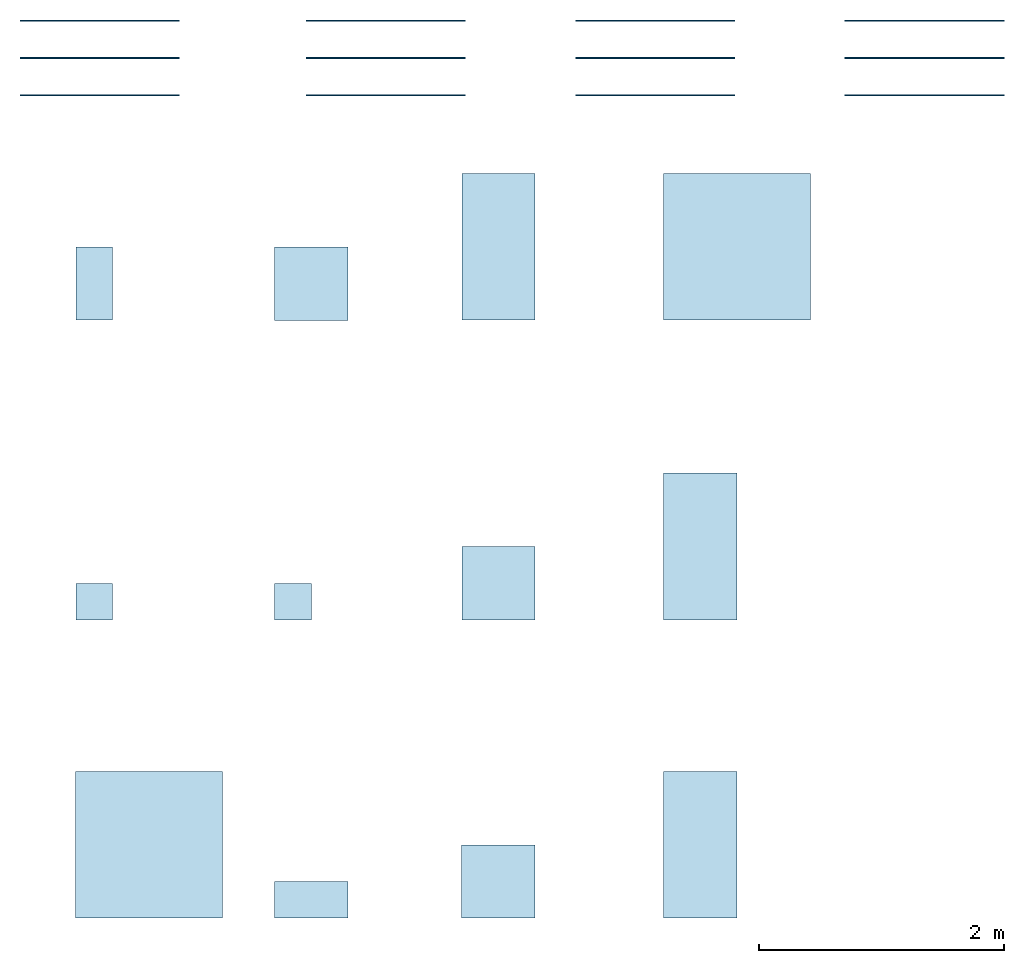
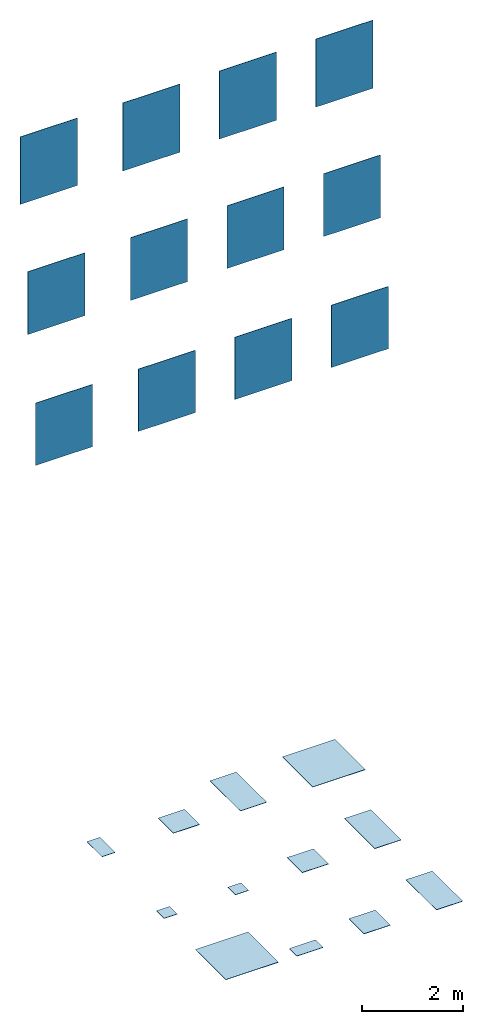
# One storey: 12 slabs, 12 walls.
"""IFC2X3 building model written with IfcOpenShell, lengths in millimetres."""

from ifc_helpers import new_model, entity, si_unit, converted_unit, derived_unit, direction, frame, frame_2d, origin, origin_2d_with_axis, place, context, subcontext, project, spatial, rectangle, extrude, material, layer, layer_set, layer_usage, type_object, element, save


model = new_model("IFC2X3")

# Units and contexts
model_context = context("Model", 3, precision=0.01, world=origin(), true_north=direction((6.12303176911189e-17, 1.0)))
body_context = subcontext(model_context, "Body", "Model", "MODEL_VIEW")
ifc_project = project(units=[si_unit("LENGTHUNIT", "METRE", prefix="MILLI"), si_unit("AREAUNIT", "SQUARE_METRE"), si_unit("VOLUMEUNIT", "CUBIC_METRE"), converted_unit("PLANEANGLEUNIT", "DEGREE", entity("IfcRatioMeasure", 0.0174532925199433), si_unit("PLANEANGLEUNIT", "RADIAN"), dimensions=[0, 0, 0, 0, 0, 0, 0]), si_unit("MASSUNIT", "GRAM", prefix="KILO"), derived_unit("MASSDENSITYUNIT", [(si_unit("MASSUNIT", "GRAM", prefix="KILO"), 1), (si_unit("LENGTHUNIT", "METRE"), -3)]), derived_unit("MOMENTOFINERTIAUNIT", [(si_unit("LENGTHUNIT", "METRE"), 4)]), si_unit("TIMEUNIT", "SECOND"), si_unit("FREQUENCYUNIT", "HERTZ"), si_unit("THERMODYNAMICTEMPERATUREUNIT", "DEGREE_CELSIUS"), derived_unit("THERMALTRANSMITTANCEUNIT", [(si_unit("MASSUNIT", "GRAM", prefix="KILO"), 1), (si_unit("THERMODYNAMICTEMPERATUREUNIT", "KELVIN"), -1), (si_unit("TIMEUNIT", "SECOND"), -3)]), derived_unit("VOLUMETRICFLOWRATEUNIT", [(si_unit("LENGTHUNIT", "METRE"), 3), (si_unit("TIMEUNIT", "SECOND"), -1)]), si_unit("ELECTRICCURRENTUNIT", "AMPERE"), si_unit("ELECTRICVOLTAGEUNIT", "VOLT"), si_unit("POWERUNIT", "WATT"), si_unit("FORCEUNIT", "NEWTON", prefix="KILO"), si_unit("ILLUMINANCEUNIT", "LUX"), si_unit("LUMINOUSFLUXUNIT", "LUMEN"), si_unit("LUMINOUSINTENSITYUNIT", "CANDELA"), derived_unit("USERDEFINED", [(si_unit("MASSUNIT", "GRAM", prefix="KILO"), -1), (si_unit("LENGTHUNIT", "METRE"), -2), (si_unit("TIMEUNIT", "SECOND"), 3), (si_unit("LUMINOUSFLUXUNIT", "LUMEN"), 1)]), derived_unit("LINEARVELOCITYUNIT", [(si_unit("LENGTHUNIT", "METRE"), 1), (si_unit("TIMEUNIT", "SECOND"), -1)]), si_unit("PRESSUREUNIT", "PASCAL"), derived_unit("USERDEFINED", [(si_unit("LENGTHUNIT", "METRE"), -2), (si_unit("MASSUNIT", "GRAM", prefix="KILO"), 1), (si_unit("TIMEUNIT", "SECOND"), -2)]), derived_unit("LINEARFORCEUNIT", [(si_unit("MASSUNIT", "GRAM", prefix="KILO"), 1), (si_unit("LENGTHUNIT", "METRE"), 1), (si_unit("TIMEUNIT", "SECOND"), -2), (si_unit("LENGTHUNIT", "METRE"), -1)]), derived_unit("PLANARFORCEUNIT", [(si_unit("MASSUNIT", "GRAM", prefix="KILO"), 1), (si_unit("LENGTHUNIT", "METRE"), 1), (si_unit("TIMEUNIT", "SECOND"), -2), (si_unit("LENGTHUNIT", "METRE"), -2)])], contexts=[model_context])

# Site, building, storey
site_placement = place(None, origin())
site = spatial("IfcSite", under=ifc_project, at=site_placement, Name="Default", CompositionType="ELEMENT")
building_placement = place(site_placement, origin())
building = spatial("IfcBuilding", under=site, at=building_placement, CompositionType="ELEMENT")
storey_placement = place(building_placement, origin())
storey = spatial("IfcBuildingStorey", under=building, at=storey_placement, Name="Level 0", CompositionType="ELEMENT", Elevation=0.0)

# Slabs
ifc_material_1 = material(Name="Pedra Azul-Ivory-60x120 NZ55")
ifc_layer_1 = layer(ifc_material_1, 9.0)
ifc_material_2 = material(Name="<Unnamed>")
ifc_layer_2 = layer(ifc_material_2, 1.0)
ifc_layer_set_1 = layer_set([ifc_layer_1, ifc_layer_2], Name="Floor:Floor_Tiles_Refin-Pedra_Azul-Ivory-60x120 NZ55")
ifc_layer_usage_1 = layer_usage(ifc_layer_set_1, "AXIS3", "POSITIVE", 0.0)
slab_type_1 = type_object("IfcSlabType", Name="Floor:Floor_Tiles_Refin-Pedra_Azul-Ivory-60x120 NZ55", PredefinedType="FLOOR", material=ifc_layer_set_1)
slab_1_placement = place(storey_placement, origin())
element("IfcSlab", 1, at=slab_1_placement, inside=storey, type_object=slab_type_1, material=ifc_layer_usage_1, Name="Floor:Floor_Tiles_Refin-Pedra_Azul-Ivory-60x120 NZ55", ObjectType="Floor:Floor_Tiles_Refin-Pedra_Azul-Ivory-60x120 NZ55", PredefinedType="FLOOR", context=body_context, shape_type="SweptSolid", body=[
    extrude(rectangle(XDim=1200.0, YDim=600.0, at=frame_2d((0.0, 1.08002495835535e-12), x_axis=(1.0, 0.0))), frame((9827.18614186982, 6289.46237428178, 0.0), z_axis=(0.0, 0.0, -1.0), x_axis=(0.0, 1.0, 0.0)), (0.0, 0.0, 1.0), 10.0),
])
ifc_material_3 = material(Name="Pedra Azul-Ivory-30x60 NZ61")
ifc_layer_3 = layer(ifc_material_3, 9.0)
ifc_layer_4 = layer(ifc_material_2, 1.0)
ifc_layer_set_2 = layer_set([ifc_layer_3, ifc_layer_4], Name="Floor:Floor_Tiles_Refin-Pedra_Azul-Ivory-30x60 NZ61")
ifc_layer_usage_2 = layer_usage(ifc_layer_set_2, "AXIS3", "POSITIVE", 0.0)
slab_type_2 = type_object("IfcSlabType", Name="Floor:Floor_Tiles_Refin-Pedra_Azul-Ivory-30x60 NZ61", PredefinedType="FLOOR", material=ifc_layer_set_2)
slab_2_placement = place(storey_placement, origin())
element("IfcSlab", 2, at=slab_2_placement, inside=storey, type_object=slab_type_2, material=ifc_layer_usage_2, Name="Floor:Floor_Tiles_Refin-Pedra_Azul-Ivory-30x60 NZ61", ObjectType="Floor:Floor_Tiles_Refin-Pedra_Azul-Ivory-30x60 NZ61", PredefinedType="FLOOR", context=body_context, shape_type="SweptSolid", body=[
    extrude(rectangle(XDim=600.0, YDim=300.0, at=frame_2d((0.0, -5.40012479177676e-13), x_axis=(1.0, 0.0))), frame((6524.37520617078, 5989.4623742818, 0.0), z_axis=(0.0, 0.0, -1.0), x_axis=(0.0, 1.0, 0.0)), (0.0, 0.0, 1.0), 10.0),
])
ifc_material_4 = material(Name="Pedra Azul-Ivory-Lucido-60x60 OA48")
ifc_layer_5 = layer(ifc_material_4, 9.0)
ifc_layer_6 = layer(ifc_material_2, 1.0)
ifc_layer_set_3 = layer_set([ifc_layer_5, ifc_layer_6], Name="Floor:Floor_Tiles_Refin-Pedra_Azul-Ivory_Lucido-60x60 OA48")
ifc_layer_usage_3 = layer_usage(ifc_layer_set_3, "AXIS3", "POSITIVE", 0.0)
slab_type_3 = type_object("IfcSlabType", Name="Floor:Floor_Tiles_Refin-Pedra_Azul-Ivory_Lucido-60x60 OA48", PredefinedType="FLOOR", material=ifc_layer_set_3)
slab_3_placement = place(storey_placement, origin())
element("IfcSlab", 3, at=slab_3_placement, inside=storey, type_object=slab_type_3, material=ifc_layer_usage_3, Name="Floor:Floor_Tiles_Refin-Pedra_Azul-Ivory_Lucido-60x60 OA48", ObjectType="Floor:Floor_Tiles_Refin-Pedra_Azul-Ivory_Lucido-60x60 OA48", PredefinedType="FLOOR", context=body_context, shape_type="SweptSolid", body=[
    extrude(rectangle(XDim=600.0, YDim=600.0, at=frame_2d((0.0, -1.08002495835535e-12), x_axis=(1.0, 0.0))), frame((9827.18614186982, 3539.46237428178, 0.0), z_axis=(0.0, 0.0, -1.0), x_axis=(0.0, 1.0, 0.0)), (0.0, 0.0, 1.0), 10.0),
])
ifc_material_5 = material(Name="Pedra Azul-Ivory-Mosaico-Mix-30x30 NZ89")
ifc_layer_7 = layer(ifc_material_5, 9.0)
ifc_layer_8 = layer(ifc_material_2, 1.0)
ifc_layer_set_4 = layer_set([ifc_layer_7, ifc_layer_8], Name="Floor:Floor_Tiles_Refin-Pedra_Azul-Ivory_Mosaico_Mix-30x30 NZ89")
ifc_layer_usage_4 = layer_usage(ifc_layer_set_4, "AXIS3", "POSITIVE", 0.0)
slab_type_4 = type_object("IfcSlabType", Name="Floor:Floor_Tiles_Refin-Pedra_Azul-Ivory_Mosaico_Mix-30x30 NZ89", PredefinedType="FLOOR", material=ifc_layer_set_4)
slab_4_placement = place(storey_placement, origin())
element("IfcSlab", 4, at=slab_4_placement, inside=storey, type_object=slab_type_4, material=ifc_layer_usage_4, Name="Floor:Floor_Tiles_Refin-Pedra_Azul-Ivory_Mosaico_Mix-30x30 NZ89", ObjectType="Floor:Floor_Tiles_Refin-Pedra_Azul-Ivory_Mosaico_Mix-30x30 NZ89", PredefinedType="FLOOR", context=body_context, shape_type="SweptSolid", body=[
    extrude(rectangle(XDim=300.0, YDim=300.0, at=frame_2d((-5.40012479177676e-13, -5.40012479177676e-13), x_axis=(1.0, 0.0))), frame((8147.39240545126, 3389.4623742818, 0.0), z_axis=(0.0, 0.0, -1.0), x_axis=(0.0, 1.0, 0.0)), (0.0, 0.0, 1.0), 10.0),
])
ifc_material_6 = material(Name="Pedra Azul-Ivory-Mosaico-30x30 NV93")
ifc_layer_9 = layer(ifc_material_6, 9.0)
ifc_layer_10 = layer(ifc_material_2, 1.0)
ifc_layer_set_5 = layer_set([ifc_layer_9, ifc_layer_10], Name="Floor:Floor_Tiles_Refin-Pedra_Azul-Ivory_Mosaico-30x30 NV93")
ifc_layer_usage_5 = layer_usage(ifc_layer_set_5, "AXIS3", "POSITIVE", 0.0)
slab_type_5 = type_object("IfcSlabType", Name="Floor:Floor_Tiles_Refin-Pedra_Azul-Ivory_Mosaico-30x30 NV93", PredefinedType="FLOOR", material=ifc_layer_set_5)
slab_5_placement = place(storey_placement, origin())
element("IfcSlab", 5, at=slab_5_placement, inside=storey, type_object=slab_type_5, material=ifc_layer_usage_5, Name="Floor:Floor_Tiles_Refin-Pedra_Azul-Ivory_Mosaico-30x30 NV93", ObjectType="Floor:Floor_Tiles_Refin-Pedra_Azul-Ivory_Mosaico-30x30 NV93", PredefinedType="FLOOR", context=body_context, shape_type="SweptSolid", body=[
    extrude(rectangle(XDim=300.0, YDim=300.0, at=frame_2d((-5.40012479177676e-13, -5.40012479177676e-13), x_axis=(1.0, 0.0))), frame((6524.37520617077, 3389.4623742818, 0.0), z_axis=(0.0, 0.0, -1.0), x_axis=(0.0, 1.0, 0.0)), (0.0, 0.0, 1.0), 10.0),
])
ifc_material_7 = material(Name="Pedra Azul-Ivory-Lucido-120x120 OA71")
ifc_layer_11 = layer(ifc_material_7, 9.0)
ifc_layer_12 = layer(ifc_material_2, 1.0)
ifc_layer_set_6 = layer_set([ifc_layer_11, ifc_layer_12], Name="Floor:Floor_Tiles_Refin-Pedra_Azul-Ivory_Lucido-120x120 OA71")
ifc_layer_usage_6 = layer_usage(ifc_layer_set_6, "AXIS3", "POSITIVE", 0.0)
slab_type_6 = type_object("IfcSlabType", Name="Floor:Floor_Tiles_Refin-Pedra_Azul-Ivory_Lucido-120x120 OA71", PredefinedType="FLOOR", material=ifc_layer_set_6)
slab_6_placement = place(storey_placement, origin())
element("IfcSlab", 6, at=slab_6_placement, inside=storey, type_object=slab_type_6, material=ifc_layer_usage_6, Name="Floor:Floor_Tiles_Refin-Pedra_Azul-Ivory_Lucido-120x120 OA71", ObjectType="Floor:Floor_Tiles_Refin-Pedra_Azul-Ivory_Lucido-120x120 OA71", PredefinedType="FLOOR", context=body_context, shape_type="SweptSolid", body=[
    extrude(rectangle(XDim=1200.0, YDim=1200.0, at=origin_2d_with_axis()), frame((6972.60093306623, 1403.43672349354, 0.0), z_axis=(0.0, 0.0, -1.0), x_axis=(0.0, 1.0, 0.0)), (0.0, 0.0, 1.0), 10.0),
])
ifc_material_8 = material(Name="Pedra Azul-Ivory-60x60 NV51")
ifc_layer_13 = layer(ifc_material_8, 9.0)
ifc_layer_14 = layer(ifc_material_2, 1.0)
ifc_layer_set_7 = layer_set([ifc_layer_13, ifc_layer_14], Name="Floor:Floor_Tiles_Refin-Pedra_Azul-Ivory-60x60 NV51")
ifc_layer_usage_7 = layer_usage(ifc_layer_set_7, "AXIS3", "POSITIVE", 0.0)
slab_type_7 = type_object("IfcSlabType", Name="Floor:Floor_Tiles_Refin-Pedra_Azul-Ivory-60x60 NV51", PredefinedType="FLOOR", material=ifc_layer_set_7)
slab_7_placement = place(storey_placement, origin())
element("IfcSlab", 7, at=slab_7_placement, inside=storey, type_object=slab_type_7, material=ifc_layer_usage_7, Name="Floor:Floor_Tiles_Refin-Pedra_Azul-Ivory-60x60 NV51", ObjectType="Floor:Floor_Tiles_Refin-Pedra_Azul-Ivory-60x60 NV51", PredefinedType="FLOOR", context=body_context, shape_type="SweptSolid", body=[
    extrude(rectangle(XDim=600.0, YDim=600.0, at=origin_2d_with_axis()), frame((8297.39240545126, 5988.41920639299, 0.0), z_axis=(0.0, 0.0, -1.0), x_axis=(0.0, 1.0, 0.0)), (0.0, 0.0, 1.0), 10.0),
])
ifc_material_9 = material(Name="Pedra Azul-Ivory-Strutt.-30x60 NV55")
ifc_layer_15 = layer(ifc_material_9, 9.0)
ifc_layer_16 = layer(ifc_material_2, 1.0)
ifc_layer_set_8 = layer_set([ifc_layer_15, ifc_layer_16], Name="Floor:Floor_Tiles_Refin-Pedra_Azul-Ivory_Strutt.-30x60 NV55")
ifc_layer_usage_8 = layer_usage(ifc_layer_set_8, "AXIS3", "POSITIVE", 0.0)
slab_type_8 = type_object("IfcSlabType", Name="Floor:Floor_Tiles_Refin-Pedra_Azul-Ivory_Strutt.-30x60 NV55", PredefinedType="FLOOR", material=ifc_layer_set_8)
slab_8_placement = place(storey_placement, origin())
element("IfcSlab", 8, at=slab_8_placement, inside=storey, type_object=slab_type_8, material=ifc_layer_usage_8, Name="Floor:Floor_Tiles_Refin-Pedra_Azul-Ivory_Strutt.-30x60 NV55", ObjectType="Floor:Floor_Tiles_Refin-Pedra_Azul-Ivory_Strutt.-30x60 NV55", PredefinedType="FLOOR", context=body_context, shape_type="SweptSolid", body=[
    extrude(rectangle(XDim=300.0, YDim=600.0, at=frame_2d((0.0, 1.08002495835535e-12), x_axis=(1.0, 0.0))), frame((8295.61813234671, 953.436723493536, 0.0), z_axis=(0.0, 0.0, -1.0), x_axis=(0.0, 1.0, 0.0)), (0.0, 0.0, 1.0), 10.0),
])
ifc_material_10 = material(Name="Pedra Azul-Ivory-Strutt.-60x60 OA98")
ifc_layer_17 = layer(ifc_material_10, 9.0)
ifc_layer_18 = layer(ifc_material_2, 1.0)
ifc_layer_set_9 = layer_set([ifc_layer_17, ifc_layer_18], Name="Floor:Floor_Tiles_Refin-Pedra_Azul-Ivory_Strutt.-60x60 OA98")
ifc_layer_usage_9 = layer_usage(ifc_layer_set_9, "AXIS3", "POSITIVE", 0.0)
slab_type_9 = type_object("IfcSlabType", Name="Floor:Floor_Tiles_Refin-Pedra_Azul-Ivory_Strutt.-60x60 OA98", PredefinedType="FLOOR", material=ifc_layer_set_9)
slab_9_placement = place(storey_placement, origin())
element("IfcSlab", 9, at=slab_9_placement, inside=storey, type_object=slab_type_9, material=ifc_layer_usage_9, Name="Floor:Floor_Tiles_Refin-Pedra_Azul-Ivory_Strutt.-60x60 OA98", ObjectType="Floor:Floor_Tiles_Refin-Pedra_Azul-Ivory_Strutt.-60x60 OA98", PredefinedType="FLOOR", context=body_context, shape_type="SweptSolid", body=[
    extrude(rectangle(XDim=600.0, YDim=600.0, at=frame_2d((0.0, -1.08002495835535e-12), x_axis=(1.0, 0.0))), frame((9825.41186876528, 1103.43672349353, 0.0), z_axis=(0.0, 0.0, -1.0), x_axis=(0.0, 1.0, 0.0)), (0.0, 0.0, 1.0), 10.0),
])
ifc_material_11 = material(Name="Pedra Azul-Ivory-120x120 NU87")
ifc_layer_19 = layer(ifc_material_11, 9.0)
ifc_layer_20 = layer(ifc_material_2, 1.0)
ifc_layer_set_10 = layer_set([ifc_layer_19, ifc_layer_20], Name="Floor:Floor_Tiles_Refin-Pedra_Azul-Ivory-120x120 NU87")
ifc_layer_usage_10 = layer_usage(ifc_layer_set_10, "AXIS3", "POSITIVE", 0.0)
slab_type_10 = type_object("IfcSlabType", Name="Floor:Floor_Tiles_Refin-Pedra_Azul-Ivory-120x120 NU87", PredefinedType="FLOOR", material=ifc_layer_set_10)
slab_10_placement = place(storey_placement, origin())
element("IfcSlab", 10, at=slab_10_placement, inside=storey, type_object=slab_type_10, material=ifc_layer_usage_10, Name="Floor:Floor_Tiles_Refin-Pedra_Azul-Ivory-120x120 NU87", ObjectType="Floor:Floor_Tiles_Refin-Pedra_Azul-Ivory-120x120 NU87", PredefinedType="FLOOR", context=body_context, shape_type="SweptSolid", body=[
    extrude(rectangle(XDim=1200.0, YDim=1200.0, at=origin_2d_with_axis()), frame((11777.1861418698, 6289.46237428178, 0.0), z_axis=(0.0, 0.0, -1.0), x_axis=(0.0, 1.0, 0.0)), (0.0, 0.0, 1.0), 10.0),
])
ifc_material_12 = material(Name="Pedra Azul-Ivory-Lucido-60x120 OA78")
ifc_layer_21 = layer(ifc_material_12, 9.0)
ifc_layer_22 = layer(ifc_material_2, 1.0)
ifc_layer_set_11 = layer_set([ifc_layer_21, ifc_layer_22], Name="Floor:Floor_Tiles_Refin-Pedra_Azul-Grey_Lucido-60x120 OA77")
ifc_layer_usage_11 = layer_usage(ifc_layer_set_11, "AXIS3", "POSITIVE", 0.0)
slab_type_11 = type_object("IfcSlabType", Name="Floor:Floor_Tiles_Refin-Pedra_Azul-Grey_Lucido-60x120 OA77", PredefinedType="FLOOR", material=ifc_layer_set_11)
slab_11_placement = place(storey_placement, origin())
element("IfcSlab", 11, at=slab_11_placement, inside=storey, type_object=slab_type_11, material=ifc_layer_usage_11, Name="Floor:Floor_Tiles_Refin-Pedra_Azul-Grey_Lucido-60x120 OA77", ObjectType="Floor:Floor_Tiles_Refin-Pedra_Azul-Grey_Lucido-60x120 OA77", PredefinedType="FLOOR", context=body_context, shape_type="SweptSolid", body=[
    extrude(rectangle(XDim=1200.0, YDim=600.0, at=frame_2d((0.0, 1.08002495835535e-12), x_axis=(1.0, 0.0))), frame((11477.1861418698, 3839.46237428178, 0.0), z_axis=(0.0, 0.0, -1.0), x_axis=(0.0, 1.0, 0.0)), (0.0, 0.0, 1.0), 10.0),
])
ifc_material_13 = material(Name="Pedra Azul-Ivory-Strutt.-60x120 OA74")
ifc_layer_23 = layer(ifc_material_13, 9.0)
ifc_layer_24 = layer(ifc_material_2, 1.0)
ifc_layer_set_12 = layer_set([ifc_layer_23, ifc_layer_24], Name="Floor:Floor_Tiles_Refin-Pedra_Azul-Ivory_Strutt.-60x120 OA74")
ifc_layer_usage_12 = layer_usage(ifc_layer_set_12, "AXIS3", "POSITIVE", 0.0)
slab_type_12 = type_object("IfcSlabType", Name="Floor:Floor_Tiles_Refin-Pedra_Azul-Ivory_Strutt.-60x120 OA74", PredefinedType="FLOOR", material=ifc_layer_set_12)
slab_12_placement = place(storey_placement, origin())
element("IfcSlab", 12, at=slab_12_placement, inside=storey, type_object=slab_type_12, material=ifc_layer_usage_12, Name="Floor:Floor_Tiles_Refin-Pedra_Azul-Ivory_Strutt.-60x120 OA74", ObjectType="Floor:Floor_Tiles_Refin-Pedra_Azul-Ivory_Strutt.-60x120 OA74", PredefinedType="FLOOR", context=body_context, shape_type="SweptSolid", body=[
    extrude(rectangle(XDim=1200.0, YDim=600.0, at=frame_2d((0.0, 1.08002495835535e-12), x_axis=(1.0, 0.0))), frame((11475.4118687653, 1403.43672349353, 0.0), z_axis=(0.0, 0.0, -1.0), x_axis=(0.0, 1.0, 0.0)), (0.0, 0.0, 1.0), 10.0),
])

# Walls
ifc_layer_25 = layer(ifc_material_2, 1.0)
ifc_layer_26 = layer(ifc_material_8, 9.0)
ifc_layer_set_13 = layer_set([ifc_layer_25, ifc_layer_26], Name="Basic Wall:Wall_Tiles_Refin-Pedra_Azul-Ivory-60x60 NV51")
ifc_layer_usage_13 = layer_usage(ifc_layer_set_13, "AXIS2", "NEGATIVE", 5.0)
wall_type_1 = type_object("IfcWallType", Name="Basic Wall:Wall_Tiles_Refin-Pedra_Azul-Ivory-60x60 NV51", PredefinedType="STANDARD", material=ifc_layer_set_13)
wall_1_placement = place(storey_placement, frame((8257.37520617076, 8137.38386313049, 14387.6770443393)))
element("IfcWallStandardCase", 13, at=wall_1_placement, inside=storey, type_object=wall_type_1, material=ifc_layer_usage_13, Name="Basic Wall:Wall_Tiles_Refin-Pedra_Azul-Ivory-60x60 NV51", ObjectType="Basic Wall:Wall_Tiles_Refin-Pedra_Azul-Ivory-60x60 NV51", context=body_context, shape_type="SweptSolid", body=[
    extrude(rectangle(XDim=1300.0, YDim=9.99999999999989, at=frame_2d((650.0, 7.63833440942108e-14), x_axis=(-1.0, 0.0))), origin(), (0.0, 0.0, 1.0), 1641.74173522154),
])
ifc_layer_27 = layer(ifc_material_2, 1.0)
ifc_layer_28 = layer(ifc_material_1, 9.0)
ifc_layer_set_14 = layer_set([ifc_layer_27, ifc_layer_28], Name="Basic Wall:Wall_Tiles_Refin-Pedra_Azul-Ivory-60x120 NZ55")
ifc_layer_usage_14 = layer_usage(ifc_layer_set_14, "AXIS2", "NEGATIVE", 5.0)
wall_type_2 = type_object("IfcWallType", Name="Basic Wall:Wall_Tiles_Refin-Pedra_Azul-Ivory-60x120 NZ55", PredefinedType="STANDARD", material=ifc_layer_set_14)
wall_2_placement = place(storey_placement, frame((10457.3752061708, 8137.38386313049, 14387.6770443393)))
element("IfcWallStandardCase", 14, at=wall_2_placement, inside=storey, type_object=wall_type_2, material=ifc_layer_usage_14, Name="Basic Wall:Wall_Tiles_Refin-Pedra_Azul-Ivory-60x120 NZ55", ObjectType="Basic Wall:Wall_Tiles_Refin-Pedra_Azul-Ivory-60x120 NZ55", context=body_context, shape_type="SweptSolid", body=[
    extrude(rectangle(XDim=1300.0, YDim=9.99999999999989, at=frame_2d((650.0, 7.63833440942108e-14), x_axis=(-1.0, 0.0))), origin(), (0.0, 0.0, 1.0), 1641.74173522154),
])
ifc_layer_29 = layer(ifc_material_2, 1.0)
ifc_layer_30 = layer(ifc_material_3, 9.0)
ifc_layer_set_15 = layer_set([ifc_layer_29, ifc_layer_30], Name="Basic Wall:Wall_Tiles_Refin-Pedra_Azul-Ivory-30x60 NZ61")
ifc_layer_usage_15 = layer_usage(ifc_layer_set_15, "AXIS2", "NEGATIVE", 5.0)
wall_type_3 = type_object("IfcWallType", Name="Basic Wall:Wall_Tiles_Refin-Pedra_Azul-Ivory-30x60 NZ61", PredefinedType="STANDARD", material=ifc_layer_set_15)
wall_3_placement = place(storey_placement, frame((5917.37520617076, 8137.38386313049, 14403.726734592)))
element("IfcWallStandardCase", 15, at=wall_3_placement, inside=storey, type_object=wall_type_3, material=ifc_layer_usage_15, Name="Basic Wall:Wall_Tiles_Refin-Pedra_Azul-Ivory-30x60 NZ61", ObjectType="Basic Wall:Wall_Tiles_Refin-Pedra_Azul-Ivory-30x60 NZ61", context=body_context, shape_type="SweptSolid", body=[
    extrude(rectangle(XDim=1300.0, YDim=9.99999999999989, at=frame_2d((650.0, 7.63833440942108e-14), x_axis=(-1.0, 0.0))), origin(), (0.0, 0.0, 1.0), 1625.69204496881),
])
ifc_layer_31 = layer(ifc_material_2, 1.0)
ifc_layer_32 = layer(ifc_material_6, 9.0)
ifc_layer_set_16 = layer_set([ifc_layer_31, ifc_layer_32], Name="Basic Wall:Wall_Tiles_Refin-Pedra_Azul-Ivory_Mosaico-30x30 NV93")
ifc_layer_usage_16 = layer_usage(ifc_layer_set_16, "AXIS2", "NEGATIVE", 5.0)
wall_type_4 = type_object("IfcWallType", Name="Basic Wall:Wall_Tiles_Refin-Pedra_Azul-Ivory_Mosaico-30x30 NV93", PredefinedType="STANDARD", material=ifc_layer_set_16)
wall_4_placement = place(storey_placement, frame((5917.37520617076, 7832.38386313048, 11452.5436262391)))
element("IfcWallStandardCase", 16, at=wall_4_placement, inside=storey, type_object=wall_type_4, material=ifc_layer_usage_16, Name="Basic Wall:Wall_Tiles_Refin-Pedra_Azul-Ivory_Mosaico-30x30 NV93", ObjectType="Basic Wall:Wall_Tiles_Refin-Pedra_Azul-Ivory_Mosaico-30x30 NV93", context=body_context, shape_type="SweptSolid", body=[
    extrude(rectangle(XDim=1300.0, YDim=9.99999999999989, at=frame_2d((650.0, 0.0), x_axis=(-1.0, 0.0))), origin(), (0.0, 0.0, 1.0), 1513.19855655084),
])
ifc_layer_33 = layer(ifc_material_2, 1.0)
ifc_layer_34 = layer(ifc_material_5, 9.0)
ifc_layer_set_17 = layer_set([ifc_layer_33, ifc_layer_34], Name="Basic Wall:Wall_Tiles_Refin-Pedra_Azul-Ivory_Mosaico_Mix-30x30 NZ89")
ifc_layer_usage_17 = layer_usage(ifc_layer_set_17, "AXIS2", "NEGATIVE", 5.0)
wall_type_5 = type_object("IfcWallType", Name="Basic Wall:Wall_Tiles_Refin-Pedra_Azul-Ivory_Mosaico_Mix-30x30 NZ89", PredefinedType="STANDARD", material=ifc_layer_set_17)
wall_5_placement = place(storey_placement, frame((8257.37520617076, 7832.38386313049, 11452.5436262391)))
element("IfcWallStandardCase", 17, at=wall_5_placement, inside=storey, type_object=wall_type_5, material=ifc_layer_usage_17, Name="Basic Wall:Wall_Tiles_Refin-Pedra_Azul-Ivory_Mosaico_Mix-30x30 NZ89", ObjectType="Basic Wall:Wall_Tiles_Refin-Pedra_Azul-Ivory_Mosaico_Mix-30x30 NZ89", context=body_context, shape_type="SweptSolid", body=[
    extrude(rectangle(XDim=1300.0, YDim=9.99999999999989, at=frame_2d((650.0, 0.0), x_axis=(-1.0, 0.0))), origin(), (0.0, 0.0, 1.0), 1513.19855655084),
])
ifc_layer_35 = layer(ifc_material_2, 1.0)
ifc_layer_36 = layer(ifc_material_4, 9.0)
ifc_layer_set_18 = layer_set([ifc_layer_35, ifc_layer_36], Name="Basic Wall:Wall_Tiles_Refin-Pedra_Azul-Ivory_Lucido-60x60 OA48")
ifc_layer_usage_18 = layer_usage(ifc_layer_set_18, "AXIS2", "NEGATIVE", 5.0)
wall_type_6 = type_object("IfcWallType", Name="Basic Wall:Wall_Tiles_Refin-Pedra_Azul-Ivory_Lucido-60x60 OA48", PredefinedType="STANDARD", material=ifc_layer_set_18)
wall_6_placement = place(storey_placement, frame((10457.3752061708, 7832.38386313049, 11452.5436262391)))
element("IfcWallStandardCase", 18, at=wall_6_placement, inside=storey, type_object=wall_type_6, material=ifc_layer_usage_18, Name="Basic Wall:Wall_Tiles_Refin-Pedra_Azul-Ivory_Lucido-60x60 OA48", ObjectType="Basic Wall:Wall_Tiles_Refin-Pedra_Azul-Ivory_Lucido-60x60 OA48", context=body_context, shape_type="SweptSolid", body=[
    extrude(rectangle(XDim=1300.0, YDim=9.99999999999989, at=frame_2d((650.000000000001, 0.0), x_axis=(-1.0, 0.0))), origin(), (0.0, 0.0, 1.0), 1513.19855655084),
])
ifc_layer_37 = layer(ifc_material_2, 1.0)
ifc_layer_38 = layer(ifc_material_7, 9.0)
ifc_layer_set_19 = layer_set([ifc_layer_37, ifc_layer_38], Name="Basic Wall:Wall_Tiles_Refin-Pedra_Azul-Ivory_Lucido-120x120 OA71")
ifc_layer_usage_19 = layer_usage(ifc_layer_set_19, "AXIS2", "NEGATIVE", 5.0)
wall_type_7 = type_object("IfcWallType", Name="Basic Wall:Wall_Tiles_Refin-Pedra_Azul-Ivory_Lucido-120x120 OA71", PredefinedType="STANDARD", material=ifc_layer_set_19)
wall_7_placement = place(storey_placement, frame((5917.37520617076, 7527.38386313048, 8479.10272143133)))
element("IfcWallStandardCase", 19, at=wall_7_placement, inside=storey, type_object=wall_type_7, material=ifc_layer_usage_19, Name="Basic Wall:Wall_Tiles_Refin-Pedra_Azul-Ivory_Lucido-120x120 OA71", ObjectType="Basic Wall:Wall_Tiles_Refin-Pedra_Azul-Ivory_Lucido-120x120 OA71", context=body_context, shape_type="SweptSolid", body=[
    extrude(rectangle(XDim=1300.0, YDim=9.99999999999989, at=frame_2d((650.0, 0.0), x_axis=(-1.0, 0.0))), origin(), (0.0, 0.0, 1.0), 1502.57401590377),
])
ifc_layer_39 = layer(ifc_material_2, 1.0)
ifc_layer_40 = layer(ifc_material_9, 9.0)
ifc_layer_set_20 = layer_set([ifc_layer_39, ifc_layer_40], Name="Basic Wall:Wall_Tiles_Refin-Pedra_Azul-Ivory_Strutt.-30x60 NV55")
ifc_layer_usage_20 = layer_usage(ifc_layer_set_20, "AXIS2", "NEGATIVE", 5.0)
wall_type_8 = type_object("IfcWallType", Name="Basic Wall:Wall_Tiles_Refin-Pedra_Azul-Ivory_Strutt.-30x60 NV55", PredefinedType="STANDARD", material=ifc_layer_set_20)
wall_8_placement = place(storey_placement, frame((8257.37520617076, 7527.38386313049, 8479.10272143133)))
element("IfcWallStandardCase", 20, at=wall_8_placement, inside=storey, type_object=wall_type_8, material=ifc_layer_usage_20, Name="Basic Wall:Wall_Tiles_Refin-Pedra_Azul-Ivory_Strutt.-30x60 NV55", ObjectType="Basic Wall:Wall_Tiles_Refin-Pedra_Azul-Ivory_Strutt.-30x60 NV55", context=body_context, shape_type="SweptSolid", body=[
    extrude(rectangle(XDim=1300.0, YDim=9.99999999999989, at=frame_2d((650.0, 0.0), x_axis=(-1.0, 0.0))), origin(), (0.0, 0.0, 1.0), 1502.57401590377),
])
ifc_layer_41 = layer(ifc_material_2, 1.0)
ifc_layer_42 = layer(ifc_material_10, 9.0)
ifc_layer_set_21 = layer_set([ifc_layer_41, ifc_layer_42], Name="Basic Wall:Wall_Tiles_Refin-Pedra_Azul-Ivory_Strutt.-60x60 OA98")
ifc_layer_usage_21 = layer_usage(ifc_layer_set_21, "AXIS2", "NEGATIVE", 5.0)
wall_type_9 = type_object("IfcWallType", Name="Basic Wall:Wall_Tiles_Refin-Pedra_Azul-Ivory_Strutt.-60x60 OA98", PredefinedType="STANDARD", material=ifc_layer_set_21)
wall_9_placement = place(storey_placement, frame((10457.3752061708, 7527.38386313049, 8479.10272143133)))
element("IfcWallStandardCase", 21, at=wall_9_placement, inside=storey, type_object=wall_type_9, material=ifc_layer_usage_21, Name="Basic Wall:Wall_Tiles_Refin-Pedra_Azul-Ivory_Strutt.-60x60 OA98", ObjectType="Basic Wall:Wall_Tiles_Refin-Pedra_Azul-Ivory_Strutt.-60x60 OA98", context=body_context, shape_type="SweptSolid", body=[
    extrude(rectangle(XDim=1300.0, YDim=9.99999999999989, at=frame_2d((650.000000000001, 0.0), x_axis=(-1.0, 0.0))), origin(), (0.0, 0.0, 1.0), 1502.57401590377),
])
ifc_layer_43 = layer(ifc_material_2, 1.0)
ifc_layer_44 = layer(ifc_material_11, 9.0)
ifc_layer_set_22 = layer_set([ifc_layer_43, ifc_layer_44], Name="Basic Wall:Wall_Tiles_Refin-Pedra_Azul-Ivory-120x120 NU87")
ifc_layer_usage_22 = layer_usage(ifc_layer_set_22, "AXIS2", "NEGATIVE", 5.0)
wall_type_10 = type_object("IfcWallType", Name="Basic Wall:Wall_Tiles_Refin-Pedra_Azul-Ivory-120x120 NU87", PredefinedType="STANDARD", material=ifc_layer_set_22)
wall_10_placement = place(storey_placement, frame((12657.3752061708, 8137.3838631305, 14387.6770443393)))
element("IfcWallStandardCase", 22, at=wall_10_placement, inside=storey, type_object=wall_type_10, material=ifc_layer_usage_22, Name="Basic Wall:Wall_Tiles_Refin-Pedra_Azul-Ivory-120x120 NU87", ObjectType="Basic Wall:Wall_Tiles_Refin-Pedra_Azul-Ivory-120x120 NU87", context=body_context, shape_type="SweptSolid", body=[
    extrude(rectangle(XDim=1300.0, YDim=9.99999999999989, at=frame_2d((650.0, 7.63833440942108e-14), x_axis=(-1.0, 0.0))), origin(), (0.0, 0.0, 1.0), 1641.74173522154),
])
ifc_layer_45 = layer(ifc_material_2, 1.0)
ifc_layer_46 = layer(ifc_material_12, 9.0)
ifc_layer_set_23 = layer_set([ifc_layer_45, ifc_layer_46], Name="Basic Wall:Wall_Tiles_Refin-Pedra_Azul-Ivory_Lucido-60x120 OA78")
ifc_layer_usage_23 = layer_usage(ifc_layer_set_23, "AXIS2", "NEGATIVE", 5.0)
wall_type_11 = type_object("IfcWallType", Name="Basic Wall:Wall_Tiles_Refin-Pedra_Azul-Ivory_Lucido-60x120 OA78", PredefinedType="STANDARD", material=ifc_layer_set_23)
wall_11_placement = place(storey_placement, frame((12657.3752061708, 7832.3838631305, 11452.5436262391)))
element("IfcWallStandardCase", 23, at=wall_11_placement, inside=storey, type_object=wall_type_11, material=ifc_layer_usage_23, Name="Basic Wall:Wall_Tiles_Refin-Pedra_Azul-Ivory_Lucido-60x120 OA78", ObjectType="Basic Wall:Wall_Tiles_Refin-Pedra_Azul-Ivory_Lucido-60x120 OA78", context=body_context, shape_type="SweptSolid", body=[
    extrude(rectangle(XDim=1300.0, YDim=9.99999999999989, at=frame_2d((650.0, 0.0), x_axis=(-1.0, 0.0))), origin(), (0.0, 0.0, 1.0), 1513.19855655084),
])
ifc_layer_47 = layer(ifc_material_2, 1.0)
ifc_layer_48 = layer(ifc_material_13, 9.0)
ifc_layer_set_24 = layer_set([ifc_layer_47, ifc_layer_48], Name="Basic Wall:Wall_Tiles_Refin-Pedra_Azul-Ivory_Strutt.-60x120 OA74")
ifc_layer_usage_24 = layer_usage(ifc_layer_set_24, "AXIS2", "NEGATIVE", 5.0)
wall_type_12 = type_object("IfcWallType", Name="Basic Wall:Wall_Tiles_Refin-Pedra_Azul-Ivory_Strutt.-60x120 OA74", PredefinedType="STANDARD", material=ifc_layer_set_24)
wall_12_placement = place(storey_placement, frame((12657.3752061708, 7527.3838631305, 8479.10272143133)))
element("IfcWallStandardCase", 24, at=wall_12_placement, inside=storey, type_object=wall_type_12, material=ifc_layer_usage_24, Name="Basic Wall:Wall_Tiles_Refin-Pedra_Azul-Ivory_Strutt.-60x120 OA74", ObjectType="Basic Wall:Wall_Tiles_Refin-Pedra_Azul-Ivory_Strutt.-60x120 OA74", context=body_context, shape_type="SweptSolid", body=[
    extrude(rectangle(XDim=1300.0, YDim=9.99999999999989, at=frame_2d((650.0, 0.0), x_axis=(-1.0, 0.0))), origin(), (0.0, 0.0, 1.0), 1502.57401590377),
])

save(model, "model.ifc")
